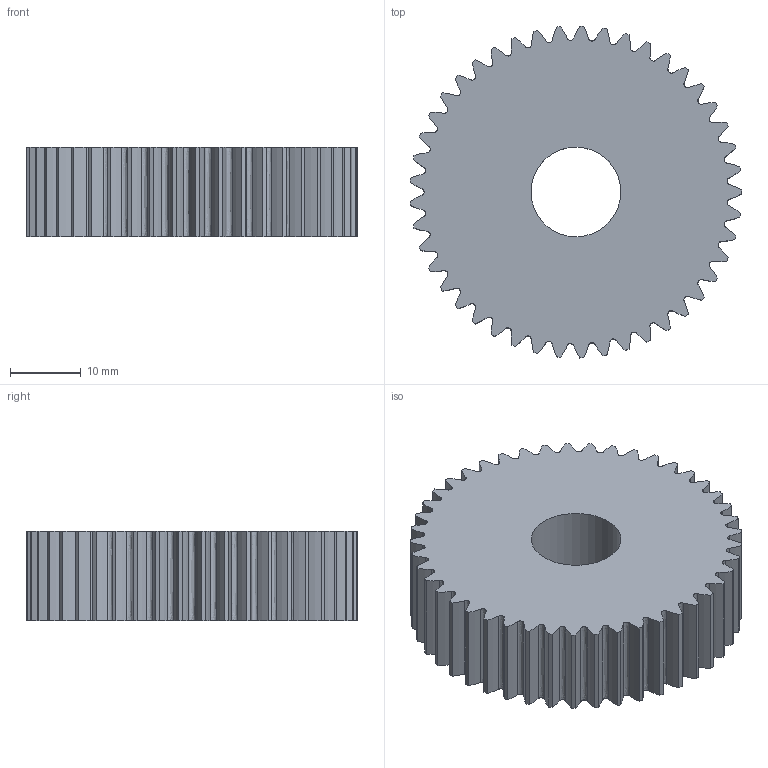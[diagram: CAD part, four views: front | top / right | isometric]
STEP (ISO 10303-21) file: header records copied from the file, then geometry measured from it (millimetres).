
FILE_DESCRIPTION(/* description */ (''),/* implementation_level */ '2;1');
FILE_NAME(/* name */ 'C:/Users/Brandon/Desktop/gears 25deg mod1 fillet.5/45t.step',/* time_stamp */ '2018-01-21T15:46:59-05:00',/* author */ (''),/* organization */ (''),/* preprocessor_version */ 'ST-DEVELOPER v16.13',/* originating_system */ 'Autodesk Translation Framework v6.5.0.72',/* authorisation */ '');
FILE_SCHEMA (('AUTOMOTIVE_DESIGN { 1 0 10303 214 3 1 1 }'));
Length unit declared in the file: millimetre
Products named in the file (2): (Unsaved); Spur Gear (45 teeth)
Assembly tree (1 placements, depth 2):
  (Unsaved)
    Spur Gear (45 teeth)
Bounding box: 46.96 x 46.99 x 12.7 mm (x, y, z)
Volume: 18588.5 mm3; surface area: 6617.7 mm2
Topology: 1 solids, 1 shells, 183 faces, 543 edges, 362 vertices
Faces by surface type: bspline 135, cylinder 46, plane 2
Full cylindrical faces by diameter (mm): 12.7 x1
Entity records: 28466 total; most frequent: CARTESIAN_POINT 24806, ORIENTED_EDGE 1086, EDGE_CURVE 543, DIRECTION 377, VERTEX_POINT 362, EDGE_LOOP 185, FACE_OUTER_BOUND 183, ADVANCED_FACE 183
